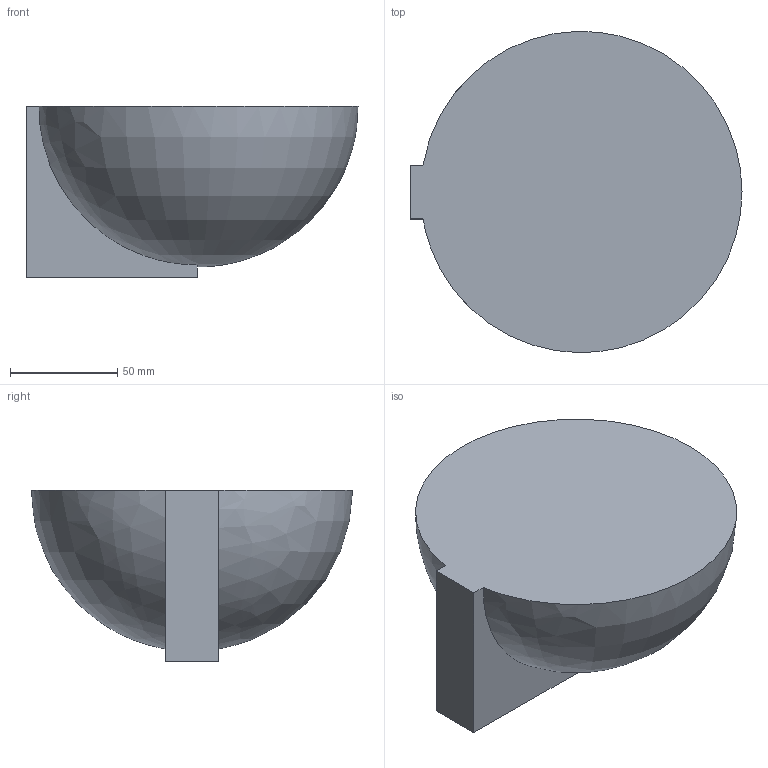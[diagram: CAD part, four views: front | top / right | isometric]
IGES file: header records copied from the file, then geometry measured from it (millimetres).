
Global section: file name: CUP Simplified 3D v1; native system: unknown; preprocessor: unknown; author: unknown; organization: unknown; date: 20240402.113239; units: millimetre
Bounding box: 155 x 149.94 x 80 mm (x, y, z)
Volume: 939098.7 mm3; surface area: 58680.3 mm2
Topology: 1 solids, 1 shells, 7 faces, 17 edges, 11 vertices
Faces by surface type: bspline 7
